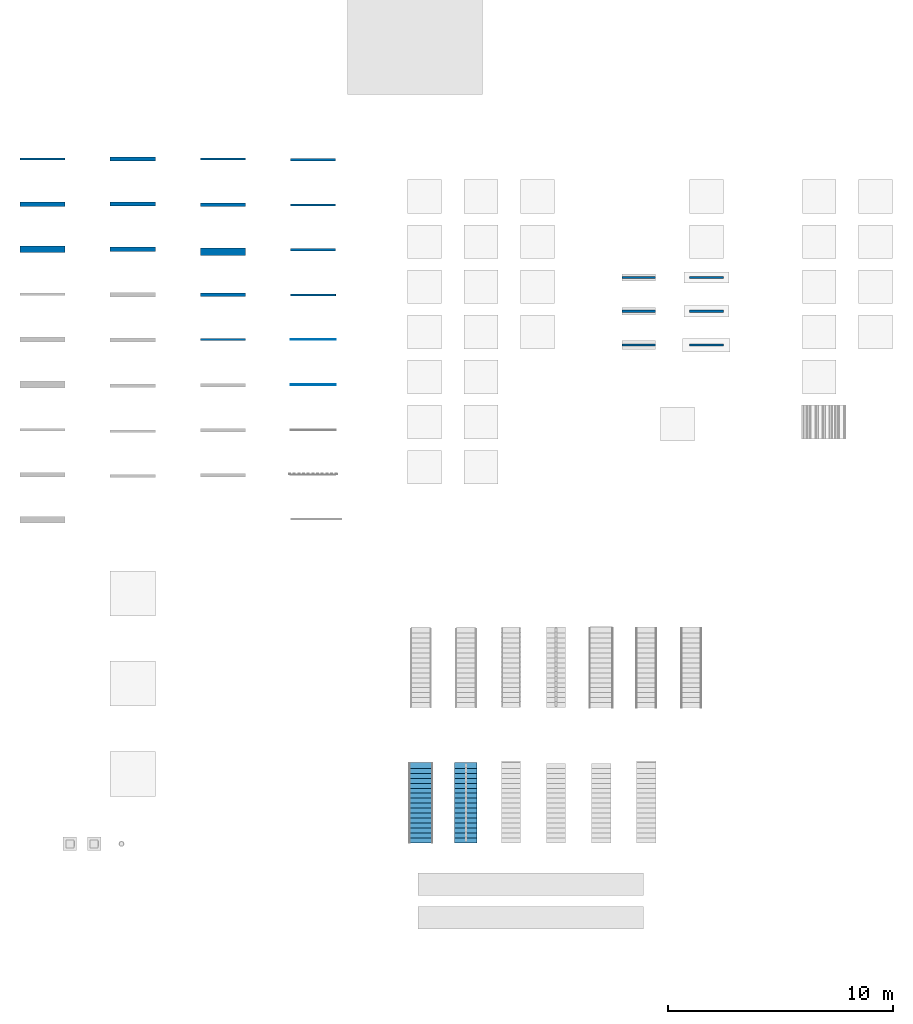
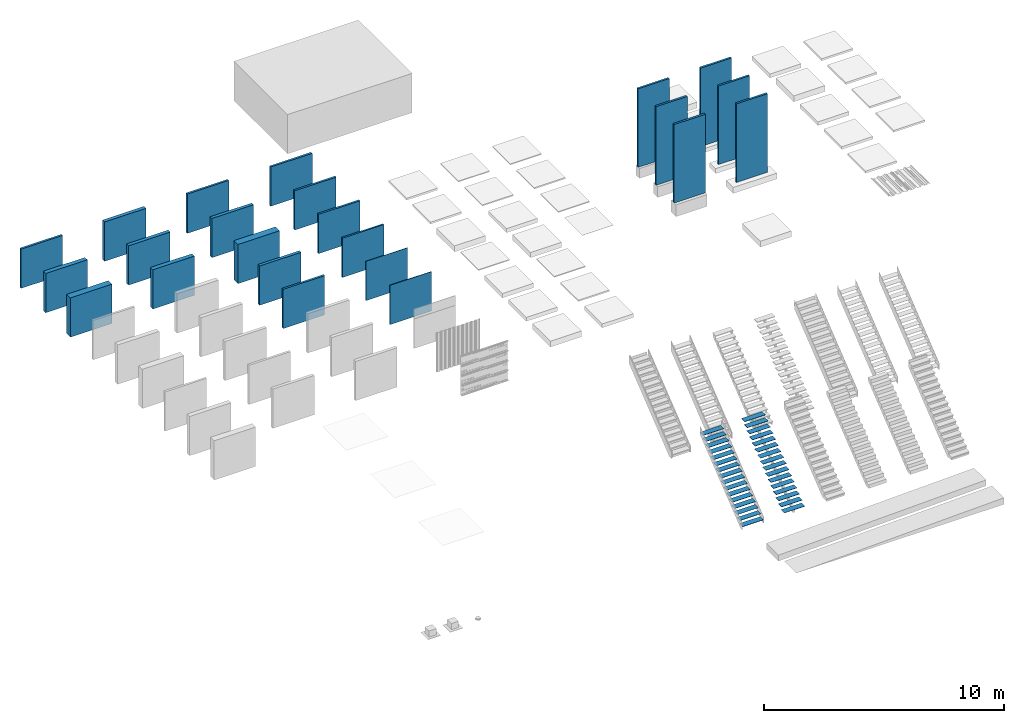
# One storey, part 5 of 14: 23 walls, 2 stair flights, 2 elements without a shape of their own.
"""IFC2X3 building model written with IfcOpenShell, lengths in millimetres."""

from ifc_helpers import new_model, entity, si_unit, converted_unit, derived_unit, direction, frame, frame_2d, origin, origin_2d_with_axis, place, context, subcontext, project, spatial, rectangle, extrude, material, layer, layer_set, layer_usage, type_object, element, aggregate, save


model = new_model("IFC2X3")

# Units and contexts
model_context = context("Model", 3, precision=0.01, world=origin(), true_north=direction((6.12303176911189e-17, 1.0)))
context_of_model = context(None, 3, precision=0.01, world=origin(), true_north=direction((6.12303176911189e-17, 1.0)))
body_context = subcontext(model_context, "Body", "Model", "MODEL_VIEW")
ifc_project = project(units=[si_unit("LENGTHUNIT", "METRE", prefix="MILLI"), si_unit("AREAUNIT", "SQUARE_METRE"), si_unit("VOLUMEUNIT", "CUBIC_METRE"), converted_unit("PLANEANGLEUNIT", "DEGREE", entity("IfcRatioMeasure", 0.0174532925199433), si_unit("PLANEANGLEUNIT", "RADIAN"), dimensions=[0, 0, 0, 0, 0, 0, 0]), si_unit("MASSUNIT", "GRAM", prefix="KILO"), si_unit("TIMEUNIT", "SECOND"), si_unit("FREQUENCYUNIT", "HERTZ"), si_unit("THERMODYNAMICTEMPERATUREUNIT", "KELVIN"), derived_unit("THERMALTRANSMITTANCEUNIT", [(si_unit("MASSUNIT", "GRAM", prefix="KILO"), 1), (si_unit("THERMODYNAMICTEMPERATUREUNIT", "KELVIN"), -1), (si_unit("TIMEUNIT", "SECOND"), -3)]), derived_unit("VOLUMETRICFLOWRATEUNIT", [(si_unit("LENGTHUNIT", "METRE"), 3), (si_unit("TIMEUNIT", "SECOND"), -1)]), si_unit("ELECTRICCURRENTUNIT", "AMPERE"), si_unit("ELECTRICVOLTAGEUNIT", "VOLT"), si_unit("POWERUNIT", "WATT")], contexts=[model_context, context_of_model])

# Site, building, storey
site_placement = place(None, origin())
site = spatial("IfcSite", under=ifc_project, at=site_placement, Name="Surface", CompositionType="ELEMENT")
building_placement = place(site_placement, origin())
building = spatial("IfcBuilding", under=site, at=building_placement, CompositionType="ELEMENT")
storey_placement = place(building_placement, origin())
storey = spatial("IfcBuildingStorey", under=building, at=storey_placement, Name="00_begane grond", CompositionType="ELEMENT", Elevation=0.0)

# Walls
ifc_material_1 = material(Name="Default")
ifc_layer_1 = layer(ifc_material_1, 100.0)
ifc_layer_set_1 = layer_set([ifc_layer_1], Name="Basic Wall:20_WA_wand_generiek_100")
ifc_layer_usage_1 = layer_usage(ifc_layer_set_1, "AXIS2", "NEGATIVE", 50.0)
wall_type_1 = type_object("IfcWallType", Name="Basic Wall:20_WA_wand_generiek_100", PredefinedType="STANDARD", material=ifc_layer_set_1)
wall_1_placement = place(storey_placement, frame((0.0, -1000.0, 0.0)))
element("IfcWallStandardCase", 1, at=wall_1_placement, inside=storey, type_object=wall_type_1, material=ifc_layer_usage_1, Name="Basic Wall:20_WA_wand_generiek_100", ObjectType="Basic Wall:20_WA_wand_generiek_100:1384", context=body_context, shape_type="SweptSolid", body=[
    extrude(rectangle(XDim=2000.0, YDim=100.0, at=frame_2d((1000.0, -7.105427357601e-15), x_axis=(-1.0, 0.0))), origin(), (0.0, 0.0, 1.0), 2000.0),
])
ifc_layer_usage_2 = layer_usage(ifc_layer_set_1, "AXIS2", "NEGATIVE", 50.0)
wall_2_placement = place(storey_placement, frame((29689.8687148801, -6248.9380073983, 0.0)))
element("IfcWallStandardCase", 2, at=wall_2_placement, inside=storey, type_object=wall_type_1, material=ifc_layer_usage_2, Name="Basic Wall:20_WA_wand_generiek_100", ObjectType="Basic Wall:20_WA_wand_generiek_100:1384", context=body_context, shape_type="SweptSolid", body=[
    extrude(rectangle(XDim=1500.0, YDim=99.9999999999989, at=frame_2d((750.000000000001, -7.8159700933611e-14), x_axis=(-1.0, 0.0))), origin(), (0.0, 0.0, 1.0), 4000.0),
])
ifc_layer_usage_3 = layer_usage(ifc_layer_set_1, "AXIS2", "NEGATIVE", 50.0)
wall_3_placement = place(storey_placement, frame((29689.8687148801, -7748.9380073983, 0.0)))
element("IfcWallStandardCase", 3, at=wall_3_placement, inside=storey, type_object=wall_type_1, material=ifc_layer_usage_3, Name="Basic Wall:20_WA_wand_generiek_100", ObjectType="Basic Wall:20_WA_wand_generiek_100:1384", context=body_context, shape_type="SweptSolid", body=[
    extrude(rectangle(XDim=1500.0, YDim=100.000000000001, at=frame_2d((750.000000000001, -8.17124146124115e-14), x_axis=(-1.0, 0.0))), origin(), (0.0, 0.0, 1.0), 4000.0),
])
ifc_layer_usage_4 = layer_usage(ifc_layer_set_1, "AXIS2", "NEGATIVE", 50.0)
wall_4_placement = place(storey_placement, frame((29689.8687148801, -9248.9380073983, 0.0)))
element("IfcWallStandardCase", 4, at=wall_4_placement, inside=storey, type_object=wall_type_1, material=ifc_layer_usage_4, Name="Basic Wall:20_WA_wand_generiek_100", ObjectType="Basic Wall:20_WA_wand_generiek_100:1384", context=body_context, shape_type="SweptSolid", body=[
    extrude(rectangle(XDim=1500.0, YDim=99.9999999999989, at=frame_2d((750.000000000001, -7.8159700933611e-14), x_axis=(-1.0, 0.0))), origin(), (0.0, 0.0, 1.0), 4000.0),
])
ifc_layer_usage_5 = layer_usage(ifc_layer_set_1, "AXIS2", "NEGATIVE", 50.0)
wall_5_placement = place(storey_placement, frame((26689.8687148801, -6248.93800739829, 0.0)))
element("IfcWallStandardCase", 5, at=wall_5_placement, inside=storey, type_object=wall_type_1, material=ifc_layer_usage_5, Name="Basic Wall:20_WA_wand_generiek_100", ObjectType="Basic Wall:20_WA_wand_generiek_100:1384", context=body_context, shape_type="SweptSolid", body=[
    extrude(rectangle(XDim=1500.0, YDim=100.000000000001, at=frame_2d((750.000000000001, -8.17124146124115e-14), x_axis=(-1.0, 0.0))), origin(), (0.0, 0.0, 1.0), 4000.0),
])
ifc_layer_usage_6 = layer_usage(ifc_layer_set_1, "AXIS2", "NEGATIVE", 50.0)
wall_6_placement = place(storey_placement, frame((26689.8687148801, -7748.93800739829, 0.0)))
element("IfcWallStandardCase", 6, at=wall_6_placement, inside=storey, type_object=wall_type_1, material=ifc_layer_usage_6, Name="Basic Wall:20_WA_wand_generiek_100", ObjectType="Basic Wall:20_WA_wand_generiek_100:1384", context=body_context, shape_type="SweptSolid", body=[
    extrude(rectangle(XDim=1500.0, YDim=99.9999999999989, at=frame_2d((750.000000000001, -7.8159700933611e-14), x_axis=(-1.0, 0.0))), origin(), (0.0, 0.0, 1.0), 4000.0),
])
ifc_layer_usage_7 = layer_usage(ifc_layer_set_1, "AXIS2", "NEGATIVE", 50.0)
wall_7_placement = place(storey_placement, frame((26689.86871488, -9248.93800739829, 0.0)))
element("IfcWallStandardCase", 7, at=wall_7_placement, inside=storey, type_object=wall_type_1, material=ifc_layer_usage_7, Name="Basic Wall:20_WA_wand_generiek_100", ObjectType="Basic Wall:20_WA_wand_generiek_100:1384", context=body_context, shape_type="SweptSolid", body=[
    extrude(rectangle(XDim=1500.0, YDim=100.000000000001, at=frame_2d((750.000000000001, -8.17124146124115e-14), x_axis=(-1.0, 0.0))), origin(), (0.0, 0.0, 1.0), 4000.0),
])
ifc_layer_2 = layer(ifc_material_1, 200.0)
ifc_layer_set_2 = layer_set([ifc_layer_2], Name="Basic Wall:20_WA_wand_generiek_200")
ifc_layer_usage_8 = layer_usage(ifc_layer_set_2, "AXIS2", "NEGATIVE", 100.0)
wall_type_2 = type_object("IfcWallType", Name="Basic Wall:20_WA_wand_generiek_200", PredefinedType="STANDARD", material=ifc_layer_set_2)
wall_8_placement = place(storey_placement, frame((0.0, -3000.0, 0.0)))
element("IfcWallStandardCase", 8, at=wall_8_placement, inside=storey, type_object=wall_type_2, material=ifc_layer_usage_8, Name="Basic Wall:20_WA_wand_generiek_200", ObjectType="Basic Wall:20_WA_wand_generiek_200", context=body_context, shape_type="SweptSolid", body=[
    extrude(rectangle(XDim=2000.0, YDim=200.0, at=frame_2d((1000.0, -7.105427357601e-15), x_axis=(-1.0, 0.0))), origin(), (0.0, 0.0, 1.0), 2000.0),
])
ifc_layer_3 = layer(ifc_material_1, 300.0)
ifc_layer_set_3 = layer_set([ifc_layer_3], Name="Basic Wall:20_WA_wand_generiek_300")
ifc_layer_usage_9 = layer_usage(ifc_layer_set_3, "AXIS2", "NEGATIVE", 150.0)
wall_type_3 = type_object("IfcWallType", Name="Basic Wall:20_WA_wand_generiek_300", PredefinedType="STANDARD", material=ifc_layer_set_3)
wall_9_placement = place(storey_placement, frame((0.0, -5000.0, 0.0)))
element("IfcWallStandardCase", 9, at=wall_9_placement, inside=storey, type_object=wall_type_3, material=ifc_layer_usage_9, Name="Basic Wall:20_WA_wand_generiek_300", ObjectType="Basic Wall:20_WA_wand_generiek_300", context=body_context, shape_type="SweptSolid", body=[
    extrude(rectangle(XDim=2000.0, YDim=300.000000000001, at=frame_2d((1000.0, -2.70006239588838e-13), x_axis=(-1.0, 0.0))), origin(), (0.0, 0.0, 1.0), 2000.0),
])
ifc_material_2 = material(Name="20_baksteen_wf_210x100x50_10mm_voeg_halfsteens_rood_genuanceerd")
ifc_layer_4 = layer(ifc_material_2, 100.0)
ifc_material_3 = material(Name="00_lucht_spouw_muur_geventileerd")
ifc_layer_5 = layer(ifc_material_3, 70.0)
ifc_layer_set_4 = layer_set([ifc_layer_4, ifc_layer_5], Name="Basic Wall:-70")
ifc_layer_usage_10 = layer_usage(ifc_layer_set_4, "AXIS2", "NEGATIVE", 85.0)
wall_type_4 = type_object("IfcWallType", Name="Basic Wall:-70", PredefinedType="STANDARD", material=ifc_layer_set_4)
wall_10_placement = place(storey_placement, frame((4000.0, -1000.0, 0.0)))
element("IfcWallStandardCase", 10, at=wall_10_placement, inside=storey, type_object=wall_type_4, material=ifc_layer_usage_10, Name="Basic Wall:-70", ObjectType="Basic Wall:-70", context=body_context, shape_type="SweptSolid", body=[
    extrude(rectangle(XDim=2000.0, YDim=170.0, at=frame_2d((1000.0, -7.105427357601e-15), x_axis=(-1.0, 0.0))), origin(), (0.0, 0.0, 1.0), 2000.0),
])
ifc_layer_6 = layer(ifc_material_2, 100.0)
ifc_layer_7 = layer(ifc_material_3, 20.0)
ifc_material_4 = material(Name="20_isolatie_steenwol")
ifc_layer_8 = layer(ifc_material_4, 50.0)
ifc_layer_set_5 = layer_set([ifc_layer_6, ifc_layer_7, ifc_layer_8], Name="Basic Wall:21_WA_mw_spouw_iso-sw_170_100-20-50")
ifc_layer_usage_11 = layer_usage(ifc_layer_set_5, "AXIS2", "NEGATIVE", 85.0)
wall_type_5 = type_object("IfcWallType", Name="Basic Wall:21_WA_mw_spouw_iso-sw_170_100-20-50", PredefinedType="STANDARD", material=ifc_layer_set_5)
wall_11_placement = place(storey_placement, frame((4000.0, -3000.0, 0.0)))
element("IfcWallStandardCase", 11, at=wall_11_placement, inside=storey, type_object=wall_type_5, material=ifc_layer_usage_11, Name="Basic Wall:21_WA_mw_spouw_iso-sw_170_100-20-50", ObjectType="Basic Wall:21_WA_mw_spouw_iso-sw_170_100-20-50", context=body_context, shape_type="SweptSolid", body=[
    extrude(rectangle(XDim=2000.0, YDim=170.0, at=frame_2d((1000.0, -7.105427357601e-15), x_axis=(-1.0, 0.0))), origin(), (0.0, 0.0, 1.0), 2000.0),
])
ifc_layer_9 = layer(ifc_material_2, 100.0)
ifc_layer_10 = layer(ifc_material_3, 30.0)
ifc_layer_11 = layer(ifc_material_4, 70.0)
ifc_layer_set_6 = layer_set([ifc_layer_9, ifc_layer_10, ifc_layer_11], Name="Basic Wall:21_WA_mw_spouw_iso-sw_200_100-30-70")
ifc_layer_usage_12 = layer_usage(ifc_layer_set_6, "AXIS2", "NEGATIVE", 100.0)
wall_type_6 = type_object("IfcWallType", Name="Basic Wall:21_WA_mw_spouw_iso-sw_200_100-30-70", PredefinedType="STANDARD", material=ifc_layer_set_6)
wall_12_placement = place(storey_placement, frame((4000.0, -5000.0, 0.0)))
element("IfcWallStandardCase", 12, at=wall_12_placement, inside=storey, type_object=wall_type_6, material=ifc_layer_usage_12, Name="Basic Wall:21_WA_mw_spouw_iso-sw_200_100-30-70", ObjectType="Basic Wall:21_WA_mw_spouw_iso-sw_200_100-30-70", context=body_context, shape_type="SweptSolid", body=[
    extrude(rectangle(XDim=2000.0, YDim=200.0, at=frame_2d((1000.0, -7.105427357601e-15), x_axis=(-1.0, 0.0))), origin(), (0.0, 0.0, 1.0), 2000.0),
])
ifc_material_5 = material(Name="28_kalkzandsteen_CS16")
ifc_layer_12 = layer(ifc_material_5, 100.0)
ifc_layer_set_7 = layer_set([ifc_layer_12], Name="Basic Wall:28_WA_kzs_CS16_100")
ifc_layer_usage_13 = layer_usage(ifc_layer_set_7, "AXIS2", "NEGATIVE", 50.0)
wall_type_7 = type_object("IfcWallType", Name="Basic Wall:28_WA_kzs_CS16_100", PredefinedType="STANDARD", material=ifc_layer_set_7)
wall_13_placement = place(storey_placement, frame((8000.0, -1000.0, 0.0)))
element("IfcWallStandardCase", 13, at=wall_13_placement, inside=storey, type_object=wall_type_7, material=ifc_layer_usage_13, Name="Basic Wall:28_WA_kzs_CS16_100", ObjectType="Basic Wall:28_WA_kzs_CS16_100", context=body_context, shape_type="SweptSolid", body=[
    extrude(rectangle(XDim=2000.0, YDim=100.0, at=frame_2d((1000.0, -7.105427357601e-15), x_axis=(-1.0, 0.0))), origin(), (0.0, 0.0, 1.0), 2000.0),
])
ifc_layer_13 = layer(ifc_material_5, 150.0)
ifc_layer_set_8 = layer_set([ifc_layer_13], Name="Basic Wall:28_WA_kzs_CS16_150")
ifc_layer_usage_14 = layer_usage(ifc_layer_set_8, "AXIS2", "NEGATIVE", 75.0)
wall_type_8 = type_object("IfcWallType", Name="Basic Wall:28_WA_kzs_CS16_150", PredefinedType="STANDARD", material=ifc_layer_set_8)
wall_14_placement = place(storey_placement, frame((8000.0, -3025.0, 0.0)))
element("IfcWallStandardCase", 14, at=wall_14_placement, inside=storey, type_object=wall_type_8, material=ifc_layer_usage_14, Name="Basic Wall:28_WA_kzs_CS16_150", ObjectType="Basic Wall:28_WA_kzs_CS16_150", context=body_context, shape_type="SweptSolid", body=[
    extrude(rectangle(XDim=2000.0, YDim=150.000000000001, at=frame_2d((1000.0, -7.105427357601e-15), x_axis=(-1.0, 0.0))), origin(), (0.0, 0.0, 1.0), 2000.0),
])
ifc_layer_14 = layer(ifc_material_5, 150.0)
ifc_layer_15 = layer(ifc_material_3, 30.0)
ifc_layer_16 = layer(ifc_material_5, 150.0)
ifc_layer_set_9 = layer_set([ifc_layer_14, ifc_layer_15, ifc_layer_16], Name="Basic Wall:28_WA_kzs-CS16_spouw_kzs-C16_330_150-30-150")
ifc_layer_usage_15 = layer_usage(ifc_layer_set_9, "AXIS2", "NEGATIVE", 165.0)
wall_type_9 = type_object("IfcWallType", Name="Basic Wall:28_WA_kzs-CS16_spouw_kzs-C16_330_150-30-150", PredefinedType="STANDARD", material=ifc_layer_set_9)
wall_15_placement = place(storey_placement, frame((8000.0, -5115.0, 0.0)))
element("IfcWallStandardCase", 15, at=wall_15_placement, inside=storey, type_object=wall_type_9, material=ifc_layer_usage_15, Name="Basic Wall:28_WA_kzs-CS16_spouw_kzs-C16_330_150-30-150", ObjectType="Basic Wall:28_WA_kzs-CS16_spouw_kzs-C16_330_150-30-150", context=body_context, shape_type="SweptSolid", body=[
    extrude(rectangle(XDim=2000.0, YDim=330.000000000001, at=frame_2d((1000.0, 0.0), x_axis=(-1.0, 0.0))), origin(), (0.0, 0.0, 1.0), 2000.0),
])
ifc_material_6 = material(Name="28_poriso_dragend")
ifc_layer_17 = layer(ifc_material_6, 140.0)
ifc_layer_set_10 = layer_set([ifc_layer_17], Name="Basic Wall:28_WA_por_PM25_140")
ifc_layer_usage_16 = layer_usage(ifc_layer_set_10, "AXIS2", "NEGATIVE", 70.0)
wall_type_10 = type_object("IfcWallType", Name="Basic Wall:28_WA_por_PM25_140", PredefinedType="STANDARD", material=ifc_layer_set_10)
wall_16_placement = place(storey_placement, frame((8000.0, -7020.0, 0.0)))
element("IfcWallStandardCase", 16, at=wall_16_placement, inside=storey, type_object=wall_type_10, material=ifc_layer_usage_16, Name="Basic Wall:28_WA_por_PM25_140", ObjectType="Basic Wall:28_WA_por_PM25_140", context=body_context, shape_type="SweptSolid", body=[
    extrude(rectangle(XDim=2000.0, YDim=140.000000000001, at=frame_2d((1000.0, -7.105427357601e-15), x_axis=(-1.0, 0.0))), origin(), (0.0, 0.0, 1.0), 2000.0),
])
ifc_material_7 = material(Name="28_cellenbeton_G4/600")
ifc_layer_18 = layer(ifc_material_7, 100.0)
ifc_layer_set_11 = layer_set([ifc_layer_18], Name="Basic Wall:28_WA_cb_G4/600_100")
ifc_layer_usage_17 = layer_usage(ifc_layer_set_11, "AXIS2", "NEGATIVE", 50.0)
wall_type_11 = type_object("IfcWallType", Name="Basic Wall:28_WA_cb_G4/600_100", PredefinedType="STANDARD", material=ifc_layer_set_11)
wall_17_placement = place(storey_placement, frame((8000.0, -9000.0, 0.0)))
element("IfcWallStandardCase", 17, at=wall_17_placement, inside=storey, type_object=wall_type_11, material=ifc_layer_usage_17, Name="Basic Wall:28_WA_cb_G4/600_100", ObjectType="Basic Wall:28_WA_cb_G4/600_100", context=body_context, shape_type="SweptSolid", body=[
    extrude(rectangle(XDim=2000.0, YDim=100.000000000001, at=frame_2d((1000.0, -1.06581410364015e-14), x_axis=(-1.0, 0.0))), origin(), (0.0, 0.0, 1.0), 2000.0),
])
ifc_material_8 = material(Name="22_kalkzandsteen_CS12")
ifc_layer_19 = layer(ifc_material_8, 100.0)
ifc_layer_set_12 = layer_set([ifc_layer_19], Name="Basic Wall:22_WA_kzs_CS12_100")
ifc_layer_usage_18 = layer_usage(ifc_layer_set_12, "AXIS2", "NEGATIVE", 50.0)
wall_type_12 = type_object("IfcWallType", Name="Basic Wall:22_WA_kzs_CS12_100", PredefinedType="STANDARD", material=ifc_layer_set_12)
wall_18_placement = place(storey_placement, frame((12000.0, -1035.0, 0.0)))
element("IfcWallStandardCase", 18, at=wall_18_placement, inside=storey, type_object=wall_type_12, material=ifc_layer_usage_18, Name="Basic Wall:22_WA_kzs_CS12_100", ObjectType="Basic Wall:22_WA_kzs_CS12_100", context=body_context, shape_type="SweptSolid", body=[
    extrude(rectangle(XDim=2000.0, YDim=100.0, at=frame_2d((1000.0, -7.105427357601e-15), x_axis=(-1.0, 0.0))), origin(), (0.0, 0.0, 1.0), 2000.0),
])
ifc_material_9 = material(Name="22_cellenbeton G2/400")
ifc_layer_20 = layer(ifc_material_9, 100.0)
ifc_layer_set_13 = layer_set([ifc_layer_20], Name="Basic Wall:22_WA_cb_G2/400_100")
ifc_layer_usage_19 = layer_usage(ifc_layer_set_13, "AXIS2", "NEGATIVE", 50.0)
wall_type_13 = type_object("IfcWallType", Name="Basic Wall:22_WA_cb_G2/400_100", PredefinedType="STANDARD", material=ifc_layer_set_13)
wall_19_placement = place(storey_placement, frame((12000.0, -3035.0, 0.0)))
element("IfcWallStandardCase", 19, at=wall_19_placement, inside=storey, type_object=wall_type_13, material=ifc_layer_usage_19, Name="Basic Wall:22_WA_cb_G2/400_100", ObjectType="Basic Wall:22_WA_cb_G2/400_100", context=body_context, shape_type="SweptSolid", body=[
    extrude(rectangle(XDim=2000.0, YDim=100.0, at=frame_2d((1000.0, -7.105427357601e-15), x_axis=(-1.0, 0.0))), origin(), (0.0, 0.0, 1.0), 2000.0),
])
ifc_material_10 = material(Name="22_gips_beplating_wand_610mm")
ifc_layer_21 = layer(ifc_material_10, 12.5)
ifc_layer_22 = layer(ifc_material_4, 70.0)
ifc_layer_23 = layer(ifc_material_10, 12.5)
ifc_layer_set_14 = layer_set([ifc_layer_21, ifc_layer_22, ifc_layer_23], Name="Basic Wall:22_WA_ms-wand_gips_isolatie_gips_95_12.5-70-12.5")
ifc_layer_usage_20 = layer_usage(ifc_layer_set_14, "AXIS2", "NEGATIVE", 47.5)
wall_type_14 = type_object("IfcWallType", Name="Basic Wall:22_WA_ms-wand_gips_isolatie_gips_95_12.5-70-12.5", PredefinedType="STANDARD", material=ifc_layer_set_14)
wall_20_placement = place(storey_placement, frame((12000.0, -5020.0, 0.0)))
element("IfcWallStandardCase", 20, at=wall_20_placement, inside=storey, type_object=wall_type_14, material=ifc_layer_usage_20, Name="Basic Wall:22_WA_ms-wand_gips_isolatie_gips_95_12.5-70-12.5", ObjectType="Basic Wall:22_WA_ms-wand_gips_isolatie_gips_95_12.5-70-12.5", context=body_context, shape_type="SweptSolid", body=[
    extrude(rectangle(XDim=2000.0, YDim=95.0000000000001, at=frame_2d((1000.0, -7.105427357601e-15), x_axis=(-1.0, 0.0))), origin(), (0.0, 0.0, 1.0), 2000.0),
])
ifc_material_11 = material(Name="22_glazen_bouwsteen")
ifc_layer_24 = layer(ifc_material_11, 80.0)
ifc_layer_set_15 = layer_set([ifc_layer_24], Name="Basic Wall:22_WA_glazen_bouwsteen_80")
ifc_layer_usage_21 = layer_usage(ifc_layer_set_15, "AXIS2", "NEGATIVE", 40.0)
wall_type_15 = type_object("IfcWallType", Name="Basic Wall:22_WA_glazen_bouwsteen_80", PredefinedType="STANDARD", material=ifc_layer_set_15)
wall_21_placement = place(storey_placement, frame((12000.0, -7025.0, 0.0)))
element("IfcWallStandardCase", 21, at=wall_21_placement, inside=storey, type_object=wall_type_15, material=ifc_layer_usage_21, Name="Basic Wall:22_WA_glazen_bouwsteen_80", ObjectType="Basic Wall:22_WA_glazen_bouwsteen_80", context=body_context, shape_type="SweptSolid", body=[
    extrude(rectangle(XDim=2000.0, YDim=79.9999999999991, at=frame_2d((1000.0, -7.105427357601e-15), x_axis=(-1.0, 0.0))), origin(), (0.0, 0.0, 1.0), 2000.0),
])
ifc_material_12 = material(Name="40_stucwerk_interieur_fijn_wit")
ifc_layer_25 = layer(ifc_material_12, 20.0)
ifc_layer_set_16 = layer_set([ifc_layer_25], Name="Basic Wall:42_WA_stucwerk_20")
ifc_layer_usage_22 = layer_usage(ifc_layer_set_16, "AXIS2", "NEGATIVE", 10.0)
wall_type_16 = type_object("IfcWallType", Name="Basic Wall:42_WA_stucwerk_20", PredefinedType="STANDARD", material=ifc_layer_set_16)
wall_22_placement = place(storey_placement, frame((12000.0, -9007.50000000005, 0.0)))
element("IfcWallStandardCase", 22, at=wall_22_placement, inside=storey, type_object=wall_type_16, material=ifc_layer_usage_22, Name="Basic Wall:42_WA_stucwerk_20", ObjectType="Basic Wall:42_WA_stucwerk_20", context=body_context, shape_type="SweptSolid", body=[
    extrude(rectangle(XDim=2000.0, YDim=19.9999999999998, at=frame_2d((1000.0, -7.99360577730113e-15), x_axis=(-1.0, 0.0))), origin(), (0.0, 0.0, 1.0), 2000.0),
])
ifc_material_13 = material(Name="40_tegels_keramisch_150x150mm_wit")
ifc_layer_26 = layer(ifc_material_13, 10.0)
ifc_material_14 = material(Name="00_zandcement")
ifc_layer_27 = layer(ifc_material_14, 20.0)
ifc_layer_set_17 = layer_set([ifc_layer_26, ifc_layer_27], Name="Basic Wall:42_WA_tegelwerk_150x150x10mm_op cementmortel_wit")
ifc_layer_usage_23 = layer_usage(ifc_layer_set_17, "AXIS2", "NEGATIVE", 15.0)
wall_type_17 = type_object("IfcWallType", Name="Basic Wall:42_WA_tegelwerk_150x150x10mm_op cementmortel_wit", PredefinedType="STANDARD", material=ifc_layer_set_17)
wall_23_placement = place(storey_placement, frame((12000.0, -11012.5, 0.0)))
element("IfcWallStandardCase", 23, at=wall_23_placement, inside=storey, type_object=wall_type_17, material=ifc_layer_usage_23, Name="Basic Wall:42_WA_tegelwerk_150x150x10mm_op cementmortel_wit", ObjectType="Basic Wall:42_WA_tegelwerk_150x150x10mm_op cementmortel_wit", context=body_context, shape_type="SweptSolid", body=[
    extrude(rectangle(XDim=2000.0, YDim=30.0000000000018, at=frame_2d((1000.0, 5.32907051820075e-13), x_axis=(-1.0, 0.0))), origin(), (0.0, 0.0, 1.0), 2000.0),
])

# Stair, stair flight
stair_1_placement = place(storey_placement, origin())
stair_1 = element("IfcStair", 24, at=stair_1_placement, inside=storey, Name="Assembled Stair:Stair", ShapeType="NOTDEFINED")
ifc_material_15 = material(Name="24_staal_gegalvaniseerd_rooster_generiek")
stair_flight_1_placement = place(stair_1_placement, frame((17274.8089026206, -31324.6322235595, 0.0)))
stair_flight_1 = element("IfcStairFlight", 25, at=stair_flight_1_placement, material=ifc_material_15, Name="Assembled Stair:Stair:69305 Run 1", ObjectType="Assembled Stair:24_ST_stalen trap_open_b=1000_op=185_aan=350", NumberOfRiser=17, NumberOfTreads=16, RiserHeight=0.578971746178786, TreadLength=0.721784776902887, context=body_context, shape_type="SweptSolid", body=[
    extrude(rectangle(XDim=270.000000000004, YDim=1000.0, at=frame_2d((2.1600499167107e-12, -2.1600499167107e-12), x_axis=(1.0, 0.0))), frame((500.0, 135.0, 161.470588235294), z_axis=(0.0, 0.0, 1.0), x_axis=(0.0, -1.0, 0.0)), (0.0, 0.0, 1.0), 15.0),
    extrude(rectangle(XDim=269.999999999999, YDim=1000.0, at=frame_2d((4.32009983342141e-12, -2.1600499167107e-12), x_axis=(1.0, 0.0))), frame((500.0, 355.0, 337.941176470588), z_axis=(0.0, 0.0, 1.0), x_axis=(0.0, -1.0, 0.0)), (0.0, 0.0, 1.0), 15.0),
    extrude(rectangle(XDim=270.000000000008, YDim=1000.0, at=frame_2d((-4.33431068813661e-12, -1.08002495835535e-12), x_axis=(1.0, 0.0))), frame((500.0, 575.0, 514.411764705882), z_axis=(0.0, 0.0, 1.0), x_axis=(0.0, -1.0, 0.0)), (0.0, 0.0, 1.0), 15.0),
    extrude(rectangle(XDim=269.999999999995, YDim=1000.0, at=frame_2d((-2.1600499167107e-12, -2.18847162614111e-12), x_axis=(1.0, 0.0))), frame((500.0, 795.0, 690.882352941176), z_axis=(0.0, 0.0, 1.0), x_axis=(0.0, -1.0, 0.0)), (0.0, 0.0, 1.0), 15.0),
    extrude(rectangle(XDim=270.000000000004, YDim=1000.0, at=frame_2d((2.1600499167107e-12, -2.18847162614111e-12), x_axis=(1.0, 0.0))), frame((500.0, 1015.0, 867.35294117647), z_axis=(0.0, 0.0, 1.0), x_axis=(0.0, -1.0, 0.0)), (0.0, 0.0, 1.0), 15.0),
    extrude(rectangle(XDim=269.999999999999, YDim=1000.0, at=frame_2d((0.0, -2.18847162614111e-12), x_axis=(1.0, 0.0))), frame((500.0, 1235.0, 1043.82352941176), z_axis=(0.0, 0.0, 1.0), x_axis=(0.0, -1.0, 0.0)), (0.0, 0.0, 1.0), 15.0),
    extrude(rectangle(XDim=270.000000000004, YDim=1000.0, at=frame_2d((-2.1600499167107e-12, -2.18847162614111e-12), x_axis=(1.0, 0.0))), frame((500.0, 1455.0, 1220.29411764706), z_axis=(0.0, 0.0, 1.0), x_axis=(0.0, -1.0, 0.0)), (0.0, 0.0, 1.0), 15.0000000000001),
    extrude(rectangle(XDim=270.000000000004, YDim=1000.0, at=frame_2d((-2.1600499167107e-12, -1.08002495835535e-12), x_axis=(1.0, 0.0))), frame((500.0, 1675.0, 1396.76470588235), z_axis=(0.0, 0.0, 1.0), x_axis=(0.0, -1.0, 0.0)), (0.0, 0.0, 1.0), 15.0000000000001),
    extrude(rectangle(XDim=269.999999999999, YDim=1000.0, at=frame_2d((4.33431068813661e-12, -1.08002495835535e-12), x_axis=(1.0, 0.0))), frame((500.0, 1895.0, 1573.23529411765), z_axis=(0.0, 0.0, 1.0), x_axis=(0.0, -1.0, 0.0)), (0.0, 0.0, 1.0), 15.0000000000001),
    extrude(rectangle(XDim=270.000000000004, YDim=1000.0, at=frame_2d((2.1600499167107e-12, 0.0), x_axis=(1.0, 0.0))), frame((500.0, 2115.0, 1749.70588235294), z_axis=(0.0, 0.0, 1.0), x_axis=(0.0, -1.0, 0.0)), (0.0, 0.0, 1.0), 15.0000000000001),
    extrude(rectangle(XDim=269.999999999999, YDim=1000.0, at=frame_2d((4.32009983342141e-12, 0.0), x_axis=(1.0, 0.0))), frame((500.0, 2335.0, 1926.17647058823), z_axis=(0.0, 0.0, 1.0), x_axis=(0.0, -1.0, 0.0)), (0.0, 0.0, 1.0), 15.0000000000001),
    extrude(rectangle(XDim=269.999999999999, YDim=1000.0, at=origin_2d_with_axis()), frame((500.0, 2555.0, 2102.64705882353), z_axis=(0.0, 0.0, 1.0), x_axis=(0.0, -1.0, 0.0)), (0.0, 0.0, 1.0), 15.0000000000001),
    extrude(rectangle(XDim=270.000000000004, YDim=1000.0, at=frame_2d((-2.1600499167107e-12, 0.0), x_axis=(1.0, 0.0))), frame((500.0, 2775.0, 2279.11764705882), z_axis=(0.0, 0.0, 1.0), x_axis=(0.0, -1.0, 0.0)), (0.0, 0.0, 1.0), 15.0000000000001),
    extrude(rectangle(XDim=270.000000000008, YDim=1000.0, at=frame_2d((0.0, 1.08002495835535e-12), x_axis=(1.0, 0.0))), frame((500.0, 2995.0, 2455.58823529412), z_axis=(0.0, 0.0, 1.0), x_axis=(0.0, -1.0, 0.0)), (0.0, 0.0, 1.0), 14.9999999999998),
    extrude(rectangle(XDim=269.999999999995, YDim=1000.0, at=frame_2d((2.1600499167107e-12, 0.0), x_axis=(1.0, 0.0))), frame((500.0, 3215.0, 2632.05882352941), z_axis=(0.0, 0.0, 1.0), x_axis=(0.0, -1.0, 0.0)), (0.0, 0.0, 1.0), 14.9999999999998),
    extrude(rectangle(XDim=270.000000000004, YDim=1000.0, at=frame_2d((-2.1600499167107e-12, 0.0), x_axis=(1.0, 0.0))), frame((500.0, 3435.0, 2808.5294117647), z_axis=(0.0, 0.0, 1.0), x_axis=(0.0, -1.0, 0.0)), (0.0, 0.0, 1.0), 14.9999999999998),
])
aggregate(stair_1, [stair_flight_1])

stair_2_placement = place(storey_placement, origin())
stair_2 = element("IfcStair", 26, at=stair_2_placement, inside=storey, Name="Assembled Stair:Stair", ShapeType="NOTDEFINED")
stair_flight_2_placement = place(stair_2_placement, frame((19274.8089026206, -31324.6322235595, 0.0)))
stair_flight_2 = element("IfcStairFlight", 27, at=stair_flight_2_placement, material=ifc_material_15, Name="Assembled Stair:Stair:69309 Run 1", ObjectType="Assembled Stair:24_ST_stalen trap_open_middenboom_b=1000_op=185_aan=220", NumberOfRiser=17, NumberOfTreads=16, RiserHeight=0.578971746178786, TreadLength=0.721784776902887, context=body_context, shape_type="SweptSolid", body=[
    extrude(rectangle(XDim=270.000000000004, YDim=999.999999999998, at=frame_2d((-2.1600499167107e-12, 0.0), x_axis=(1.0, 0.0))), frame((500.0, 135.0, 161.470588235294), z_axis=(0.0, 0.0, 1.0), x_axis=(0.0, -1.0, 0.0)), (0.0, 0.0, 1.0), 15.0),
    extrude(rectangle(XDim=269.999999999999, YDim=999.999999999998, at=origin_2d_with_axis()), frame((500.0, 355.0, 337.941176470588), z_axis=(0.0, 0.0, 1.0), x_axis=(0.0, -1.0, 0.0)), (0.0, 0.0, 1.0), 15.0),
    extrude(rectangle(XDim=270.000000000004, YDim=999.999999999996, at=frame_2d((2.1600499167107e-12, 1.10844666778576e-12), x_axis=(1.0, 0.0))), frame((500.0, 575.0, 514.411764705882), z_axis=(0.0, 0.0, 1.0), x_axis=(0.0, -1.0, 0.0)), (0.0, 0.0, 1.0), 15.0),
    extrude(rectangle(XDim=269.999999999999, YDim=999.999999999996, at=frame_2d((0.0, 1.10844666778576e-12), x_axis=(1.0, 0.0))), frame((500.0, 795.0, 690.882352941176), z_axis=(0.0, 0.0, 1.0), x_axis=(0.0, -1.0, 0.0)), (0.0, 0.0, 1.0), 15.0),
    extrude(rectangle(XDim=270.000000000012, YDim=999.999999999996, at=frame_2d((-6.49436060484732e-12, 1.10844666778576e-12), x_axis=(1.0, 0.0))), frame((500.0, 1015.0, 867.35294117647), z_axis=(0.0, 0.0, 1.0), x_axis=(0.0, -1.0, 0.0)), (0.0, 0.0, 1.0), 15.0),
    extrude(rectangle(XDim=269.999999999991, YDim=1000.0, at=frame_2d((4.33431068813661e-12, 1.10844666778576e-12), x_axis=(1.0, 0.0))), frame((500.0, 1235.0, 1043.82352941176), z_axis=(0.0, 0.0, 1.0), x_axis=(0.0, -1.0, 0.0)), (0.0, 0.0, 1.0), 15.0),
    extrude(rectangle(XDim=270.000000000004, YDim=1000.0, at=frame_2d((2.1600499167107e-12, -1.10844666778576e-12), x_axis=(1.0, 0.0))), frame((500.0, 1455.0, 1220.29411764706), z_axis=(0.0, 0.0, 1.0), x_axis=(0.0, -1.0, 0.0)), (0.0, 0.0, 1.0), 15.0000000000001),
    extrude(rectangle(XDim=269.999999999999, YDim=999.999999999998, at=frame_2d((-4.32009983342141e-12, 0.0), x_axis=(1.0, 0.0))), frame((500.0, 1675.0, 1396.76470588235), z_axis=(0.0, 0.0, 1.0), x_axis=(0.0, -1.0, 0.0)), (0.0, 0.0, 1.0), 15.0000000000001),
    extrude(rectangle(XDim=270.000000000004, YDim=999.999999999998, at=frame_2d((-2.1600499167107e-12, 0.0), x_axis=(1.0, 0.0))), frame((500.0, 1895.0, 1573.23529411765), z_axis=(0.0, 0.0, 1.0), x_axis=(0.0, -1.0, 0.0)), (0.0, 0.0, 1.0), 15.0000000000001),
    extrude(rectangle(XDim=269.999999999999, YDim=999.999999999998, at=origin_2d_with_axis()), frame((500.0, 2115.0, 1749.70588235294), z_axis=(0.0, 0.0, 1.0), x_axis=(0.0, -1.0, 0.0)), (0.0, 0.0, 1.0), 15.0000000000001),
    extrude(rectangle(XDim=270.000000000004, YDim=999.999999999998, at=frame_2d((-2.1600499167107e-12, 0.0), x_axis=(1.0, 0.0))), frame((500.0, 2335.0, 1926.17647058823), z_axis=(0.0, 0.0, 1.0), x_axis=(0.0, -1.0, 0.0)), (0.0, 0.0, 1.0), 15.0000000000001),
    extrude(rectangle(XDim=270.000000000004, YDim=999.999999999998, at=frame_2d((2.1600499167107e-12, 0.0), x_axis=(1.0, 0.0))), frame((500.0, 2555.0, 2102.64705882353), z_axis=(0.0, 0.0, 1.0), x_axis=(0.0, -1.0, 0.0)), (0.0, 0.0, 1.0), 15.0000000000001),
    extrude(rectangle(XDim=269.999999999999, YDim=999.999999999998, at=origin_2d_with_axis()), frame((500.0, 2775.0, 2279.11764705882), z_axis=(0.0, 0.0, 1.0), x_axis=(0.0, -1.0, 0.0)), (0.0, 0.0, 1.0), 15.0000000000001),
    extrude(rectangle(XDim=270.000000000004, YDim=999.999999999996, at=frame_2d((-2.1600499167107e-12, 1.10844666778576e-12), x_axis=(1.0, 0.0))), frame((500.0, 2995.0, 2455.58823529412), z_axis=(0.0, 0.0, 1.0), x_axis=(0.0, -1.0, 0.0)), (0.0, 0.0, 1.0), 14.9999999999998),
    extrude(rectangle(XDim=269.999999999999, YDim=999.999999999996, at=frame_2d((0.0, 1.10844666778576e-12), x_axis=(1.0, 0.0))), frame((500.0, 3215.0, 2632.05882352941), z_axis=(0.0, 0.0, 1.0), x_axis=(0.0, -1.0, 0.0)), (0.0, 0.0, 1.0), 14.9999999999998),
    extrude(rectangle(XDim=270.000000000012, YDim=999.999999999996, at=frame_2d((-6.49436060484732e-12, 1.10844666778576e-12), x_axis=(1.0, 0.0))), frame((500.0, 3435.0, 2808.5294117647), z_axis=(0.0, 0.0, 1.0), x_axis=(0.0, -1.0, 0.0)), (0.0, 0.0, 1.0), 14.9999999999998),
])
aggregate(stair_2, [stair_flight_2])

save(model, "model.ifc")
